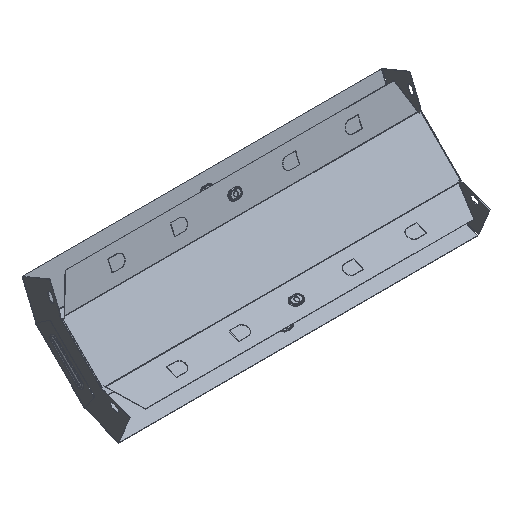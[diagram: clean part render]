
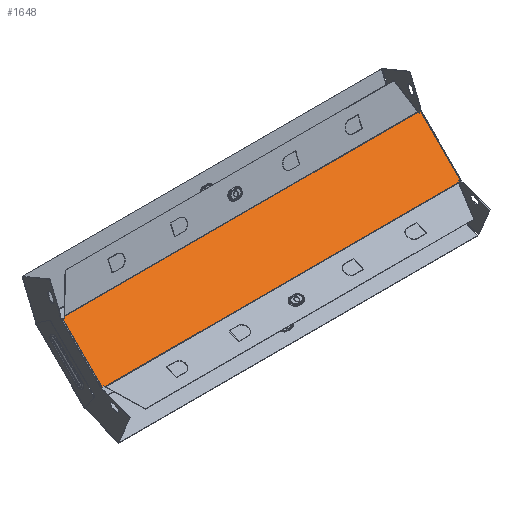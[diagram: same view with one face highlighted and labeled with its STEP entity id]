
A CAD part, isometric view. The second image highlights one B-rep face of the part: STEP entity #1648.
In plain terms, the highlighted planar face has unit normal (0, -0.707, 0.707).
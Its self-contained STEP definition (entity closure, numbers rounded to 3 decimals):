
#90 = VECTOR ( 'NONE', #5501, 1000. ) ;
#170 = VERTEX_POINT ( 'NONE', #805 ) ;
#186 = LINE ( 'NONE', #667, #7103 ) ;
#205 = LINE ( 'NONE', #6434, #3801 ) ;
#330 = VERTEX_POINT ( 'NONE', #4834 ) ;
#667 = CARTESIAN_POINT ( 'NONE',  ( -300.299, 69.859, -2.258 ) ) ;
#674 = AXIS2_PLACEMENT_3D ( 'NONE', #11603, #6216, #8303 ) ;
#695 = EDGE_CURVE ( 'NONE', #1754, #3715, #10496, .T. ) ;
#805 = CARTESIAN_POINT ( 'NONE',  ( -295.217, 3.747, -68.371 ) ) ;
#827 = VECTOR ( 'NONE', #7591, 1000. ) ;
#1131 = CARTESIAN_POINT ( 'NONE',  ( -295.217, 3.747, -68.371 ) ) ;
#1149 = EDGE_CURVE ( 'NONE', #330, #10680, #8566, .T. ) ;
#1237 = EDGE_CURVE ( 'NONE', #1754, #6407, #205, .T. ) ;
#1372 = ORIENTED_EDGE ( 'NONE', *, *, #7600, .T. ) ;
#1375 = LINE ( 'NONE', #5164, #8137 ) ;
#1430 = CARTESIAN_POINT ( 'NONE',  ( -294.345, 2.258, -69.859 ) ) ;
#1470 = DIRECTION ( 'NONE',  ( 0.924, 0.271, 0.271 ) ) ;
#1523 = LINE ( 'NONE', #4981, #7444 ) ;
#1532 = LINE ( 'NONE', #3848, #6161 ) ;
#1548 = ORIENTED_EDGE ( 'NONE', *, *, #9690, .T. ) ;
#1588 = CARTESIAN_POINT ( 'NONE',  ( 273.5, -33.327, -105.445 ) ) ;
#1648 = ADVANCED_FACE ( 'NONE', ( #11926 ), #5090, .F. ) ;
#1754 = VERTEX_POINT ( 'NONE', #8167 ) ;
#1873 = ORIENTED_EDGE ( 'NONE', *, *, #1237, .F. ) ;
#2179 = ORIENTED_EDGE ( 'NONE', *, *, #695, .T. ) ;
#2391 = CARTESIAN_POINT ( 'NONE',  ( 294.345, 69.859, -2.258 ) ) ;
#2433 = EDGE_CURVE ( 'NONE', #3505, #10291, #5068, .T. ) ;
#2765 = CARTESIAN_POINT ( 'NONE',  ( -295.217, 68.371, -3.747 ) ) ;
#2908 = LINE ( 'NONE', #10465, #5205 ) ;
#3153 = VECTOR ( 'NONE', #5275, 1000. ) ;
#3169 = DIRECTION ( 'NONE',  ( 0., -0.707, -0.707 ) ) ;
#3505 = VERTEX_POINT ( 'NONE', #2391 ) ;
#3715 = VERTEX_POINT ( 'NONE', #5594 ) ;
#3801 = VECTOR ( 'NONE', #7313, 1000. ) ;
#3848 = CARTESIAN_POINT ( 'NONE',  ( 300.299, 2.258, -69.859 ) ) ;
#4322 = ORIENTED_EDGE ( 'NONE', *, *, #7356, .F. ) ;
#4458 = CARTESIAN_POINT ( 'NONE',  ( 295.217, 3.747, -68.371 ) ) ;
#4607 = CARTESIAN_POINT ( 'NONE',  ( -298.2, 69.245, -2.873 ) ) ;
#4615 = CARTESIAN_POINT ( 'NONE',  ( 300.299, 69.859, -2.258 ) ) ;
#4767 = ORIENTED_EDGE ( 'NONE', *, *, #5094, .T. ) ;
#4802 = ORIENTED_EDGE ( 'NONE', *, *, #9332, .T. ) ;
#4834 = CARTESIAN_POINT ( 'NONE',  ( 294.345, 2.258, -69.859 ) ) ;
#4859 = DIRECTION ( 'NONE',  ( -0.383, 0.653, 0.653 ) ) ;
#4981 = CARTESIAN_POINT ( 'NONE',  ( 273.5, 105.445, 33.327 ) ) ;
#5068 = LINE ( 'NONE', #9896, #9396 ) ;
#5090 = PLANE ( 'NONE',  #674 ) ;
#5094 = EDGE_CURVE ( 'NONE', #170, #8151, #5732, .T. ) ;
#5164 = CARTESIAN_POINT ( 'NONE',  ( -300.299, 2.258, -69.859 ) ) ;
#5205 = VECTOR ( 'NONE', #3169, 1000. ) ;
#5275 = DIRECTION ( 'NONE',  ( -0.383, -0.653, -0.653 ) ) ;
#5501 = DIRECTION ( 'NONE',  ( -1., 0., 0. ) ) ;
#5594 = CARTESIAN_POINT ( 'NONE',  ( 295.217, 68.371, -3.747 ) ) ;
#5732 = LINE ( 'NONE', #1131, #827 ) ;
#5786 = ORIENTED_EDGE ( 'NONE', *, *, #2433, .T. ) ;
#6064 = DIRECTION ( 'NONE',  ( -1., 0., 0. ) ) ;
#6157 = EDGE_CURVE ( 'NONE', #10291, #9462, #10402, .T. ) ;
#6161 = VECTOR ( 'NONE', #10258, 1000. ) ;
#6216 = DIRECTION ( 'NONE',  ( 0., 0.707, -0.707 ) ) ;
#6247 = DIRECTION ( 'NONE',  ( -0.924, 0.271, 0.271 ) ) ;
#6266 = DIRECTION ( 'NONE',  ( 0.383, 0.653, 0.653 ) ) ;
#6405 = VECTOR ( 'NONE', #6266, 1000. ) ;
#6407 = VERTEX_POINT ( 'NONE', #8447 ) ;
#6434 = CARTESIAN_POINT ( 'NONE',  ( 298.2, 70., -2.118 ) ) ;
#6498 = CARTESIAN_POINT ( 'NONE',  ( -294.345, 69.859, -2.258 ) ) ;
#7103 = VECTOR ( 'NONE', #6247, 1000. ) ;
#7313 = DIRECTION ( 'NONE',  ( 0., -0.707, -0.707 ) ) ;
#7356 = EDGE_CURVE ( 'NONE', #330, #8151, #7869, .T. ) ;
#7371 = CARTESIAN_POINT ( 'NONE',  ( 298.2, 2.258, -69.859 ) ) ;
#7444 = VECTOR ( 'NONE', #4859, 1000. ) ;
#7494 = EDGE_CURVE ( 'NONE', #10680, #6407, #1532, .T. ) ;
#7591 = DIRECTION ( 'NONE',  ( 0.383, -0.653, -0.653 ) ) ;
#7600 = EDGE_CURVE ( 'NONE', #3715, #3505, #1523, .T. ) ;
#7803 = CARTESIAN_POINT ( 'NONE',  ( -298.2, 2.873, -69.245 ) ) ;
#7868 = VERTEX_POINT ( 'NONE', #4607 ) ;
#7869 = LINE ( 'NONE', #7371, #90 ) ;
#7895 = ORIENTED_EDGE ( 'NONE', *, *, #6157, .T. ) ;
#7922 = EDGE_LOOP ( 'NONE', ( #8101, #9344, #1873, #2179, #1372, #5786, #7895, #4802, #1548, #10398, #4767, #4322 ) ) ;
#8101 = ORIENTED_EDGE ( 'NONE', *, *, #1149, .T. ) ;
#8137 = VECTOR ( 'NONE', #1470, 1000. ) ;
#8151 = VERTEX_POINT ( 'NONE', #1430 ) ;
#8167 = CARTESIAN_POINT ( 'NONE',  ( 298.2, 69.245, -2.873 ) ) ;
#8210 = EDGE_CURVE ( 'NONE', #11402, #170, #1375, .T. ) ;
#8303 = DIRECTION ( 'NONE',  ( 0., 0.707, 0.707 ) ) ;
#8447 = CARTESIAN_POINT ( 'NONE',  ( 298.2, 2.873, -69.245 ) ) ;
#8566 = LINE ( 'NONE', #1588, #6405 ) ;
#9218 = DIRECTION ( 'NONE',  ( -0.924, -0.271, -0.271 ) ) ;
#9332 = EDGE_CURVE ( 'NONE', #9462, #7868, #186, .T. ) ;
#9344 = ORIENTED_EDGE ( 'NONE', *, *, #7494, .T. ) ;
#9396 = VECTOR ( 'NONE', #6064, 1000. ) ;
#9462 = VERTEX_POINT ( 'NONE', #2765 ) ;
#9690 = EDGE_CURVE ( 'NONE', #7868, #11402, #2908, .T. ) ;
#9896 = CARTESIAN_POINT ( 'NONE',  ( 298.2, 69.859, -2.258 ) ) ;
#10258 = DIRECTION ( 'NONE',  ( 0.924, -0.271, -0.271 ) ) ;
#10291 = VERTEX_POINT ( 'NONE', #6498 ) ;
#10398 = ORIENTED_EDGE ( 'NONE', *, *, #8210, .T. ) ;
#10402 = LINE ( 'NONE', #10844, #3153 ) ;
#10465 = CARTESIAN_POINT ( 'NONE',  ( -298.2, 70., -2.118 ) ) ;
#10496 = LINE ( 'NONE', #4615, #10787 ) ;
#10680 = VERTEX_POINT ( 'NONE', #4458 ) ;
#10787 = VECTOR ( 'NONE', #9218, 1000. ) ;
#10844 = CARTESIAN_POINT ( 'NONE',  ( -295.217, 68.371, -3.747 ) ) ;
#11402 = VERTEX_POINT ( 'NONE', #7803 ) ;
#11603 = CARTESIAN_POINT ( 'NONE',  ( 298.2, 70., -2.118 ) ) ;
#11926 = FACE_OUTER_BOUND ( 'NONE', #7922, .T. ) ;
